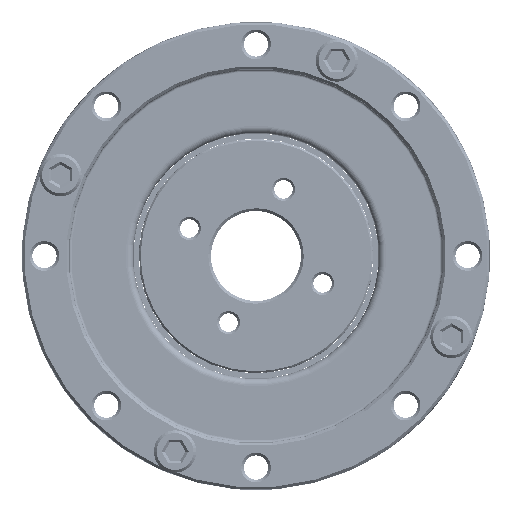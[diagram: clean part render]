
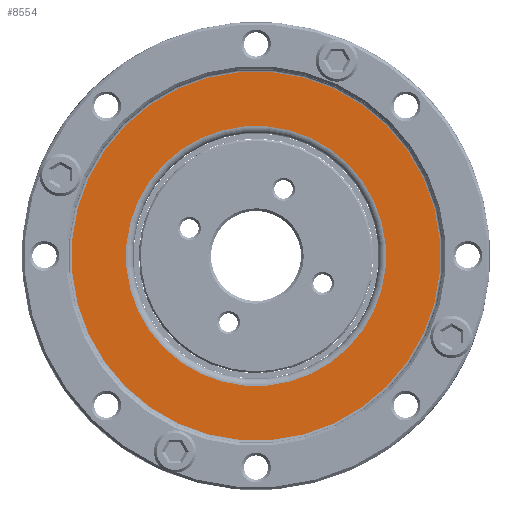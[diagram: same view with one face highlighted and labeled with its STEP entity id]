
A CAD part, left-side view. The second image highlights one B-rep face of the part: STEP entity #8554.
In plain terms, the highlighted planar face has unit normal (-1, 0, 0).
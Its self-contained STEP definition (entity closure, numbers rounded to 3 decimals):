
#2432=FACE_BOUND('',#12656,.T.);
#2433=FACE_BOUND('',#12657,.T.);
#7056=PLANE('',#33763);
#8554=ADVANCED_FACE('',(#2432,#2433),#7056,.F.);
#12656=EDGE_LOOP('',(#19861));
#12657=EDGE_LOOP('',(#19862));
#19861=ORIENTED_EDGE('',*,*,#28978,.T.);
#19862=ORIENTED_EDGE('',*,*,#28977,.F.);
#24856=VERTEX_POINT('',#139401);
#24857=VERTEX_POINT('',#139404);
#28977=EDGE_CURVE('',#24856,#24856,#31168,.T.);
#28978=EDGE_CURVE('',#24857,#24857,#31169,.T.);
#31168=CIRCLE('',#33760,20.502);
#31169=CIRCLE('',#33762,14.45);
#33760=AXIS2_PLACEMENT_3D('',#139400,#40108,#40109);
#33762=AXIS2_PLACEMENT_3D('',#139403,#40112,#40113);
#33763=AXIS2_PLACEMENT_3D('',#139405,#40114,#40115);
#40108=DIRECTION('',(1.,0.,0.));
#40109=DIRECTION('',(0.,-0.707,0.707));
#40112=DIRECTION('',(1.,0.,0.));
#40113=DIRECTION('',(0.,-0.707,0.707));
#40114=DIRECTION('',(1.,0.,0.));
#40115=DIRECTION('',(0.,0.707,-0.707));
#139400=CARTESIAN_POINT('',(-12.24,0.,0.));
#139401=CARTESIAN_POINT('',(-12.24,-14.497,14.497));
#139403=CARTESIAN_POINT('',(-12.24,0.,0.));
#139404=CARTESIAN_POINT('',(-12.24,-10.218,10.218));
#139405=CARTESIAN_POINT('',(-12.24,14.497,14.497));
